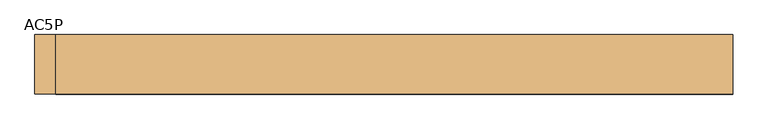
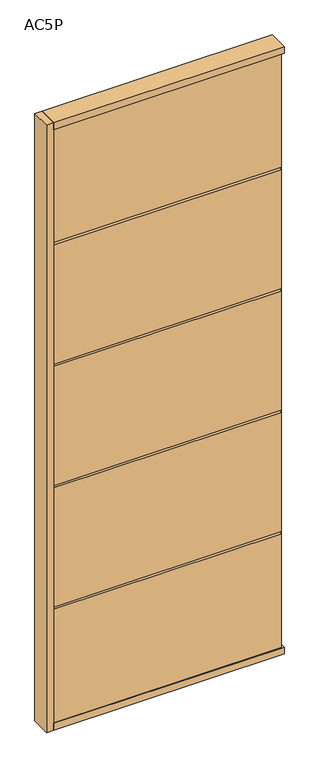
"""IFC4 building model written with IfcOpenShell, lengths in millimetres: door geometry, Mobiliário_Mobiliário de Escritório_Painel Cego - AC5P (Inicial e Final)_Marelli : AC5P."""

from ifc_helpers import new_model, si_unit, frame, origin, origin_with_axes, place, context, project, spatial, polyline, outline, extrude, source, transform, mapped, element, save


def ac5p_d84bd6de(model_context):
    return source(origin(), model_context, "Body", "SweptSolid", [
        extrude(outline(polyline([(500.0, 42.5), (500.0, -42.5), (-470.0, -42.5), (-470.0, 42.5), (500.0, 42.5)])), origin_with_axes(), (0.0, 0.0, 1.0), 30.0),
        extrude(outline(polyline([(490.0, 39.5), (490.0, 21.5), (-470.0, 21.5), (-470.0, 39.5), (490.0, 39.5)])), frame((0.0, 0.0, 30.0), z_axis=(0.0, 0.0, 1.0), x_axis=(1.0, 0.0, 0.0)), (0.0, 0.0, 1.0), 505.0),
        extrude(outline(polyline([(490.0, 21.5), (490.0, -21.5), (-470.0, -21.5), (-470.0, 21.5), (490.0, 21.5)])), frame((0.0, 0.0, 518.5), z_axis=(0.0, 0.0, 1.0), x_axis=(1.0, 0.0, 0.0)), (0.0, 0.0, 1.0), 43.0),
        extrude(outline(polyline([(490.0, 21.5), (490.0, -21.5), (-470.0, -21.5), (-470.0, 21.5), (490.0, 21.5)])), frame((0.0, 0.0, 1058.5), z_axis=(0.0, 0.0, 1.0), x_axis=(1.0, 0.0, 0.0)), (0.0, 0.0, 1.0), 43.0),
        extrude(outline(polyline([(490.0, 39.5), (490.0, 21.5), (-470.0, 21.5), (-470.0, 39.5), (490.0, 39.5)])), frame((0.0, 0.0, 545.0), z_axis=(0.0, 0.0, 1.0), x_axis=(1.0, 0.0, 0.0)), (0.0, 0.0, 1.0), 530.0),
        extrude(outline(polyline([(490.0, -39.5), (-470.0, -39.5), (-470.0, -21.5), (490.0, -21.5), (490.0, -39.5)])), frame((0.0, 0.0, 30.0), z_axis=(0.0, 0.0, 1.0), x_axis=(1.0, 0.0, 0.0)), (0.0, 0.0, 1.0), 505.0),
        extrude(outline(polyline([(490.0, -39.5), (-470.0, -39.5), (-470.0, -21.5), (490.0, -21.5), (490.0, -39.5)])), frame((0.0, 0.0, 545.0), z_axis=(0.0, 0.0, 1.0), x_axis=(1.0, 0.0, 0.0)), (0.0, 0.0, 1.0), 530.0),
        extrude(outline(polyline([(500.0, 42.5), (500.0, -42.5), (-470.0, -42.5), (-470.0, 42.5), (500.0, 42.5)])), frame((0.0, 0.0, 2670.0), z_axis=(0.0, 0.0, 1.0), x_axis=(1.0, 0.0, 0.0)), (0.0, 0.0, 1.0), 30.0),
        extrude(outline(polyline([(490.0, 39.5), (490.0, 21.5), (-470.0, 21.5), (-470.0, 39.5), (490.0, 39.5)])), frame((0.0, 0.0, 1625.0), z_axis=(0.0, 0.0, 1.0), x_axis=(1.0, 0.0, 0.0)), (0.0, 0.0, 1.0), 530.0),
        extrude(outline(polyline([(490.0, 21.5), (490.0, -21.5), (-470.0, -21.5), (-470.0, 21.5), (490.0, 21.5)])), frame((0.0, 0.0, 2138.5), z_axis=(0.0, 0.0, 1.0), x_axis=(1.0, 0.0, 0.0)), (0.0, 0.0, 1.0), 43.0),
        extrude(outline(polyline([(490.0, 21.5), (490.0, -21.5), (-470.0, -21.5), (-470.0, 21.5), (490.0, 21.5)])), frame((0.0, 0.0, 1598.5), z_axis=(0.0, 0.0, 1.0), x_axis=(1.0, 0.0, 0.0)), (0.0, 0.0, 1.0), 43.0),
        extrude(outline(polyline([(490.0, -39.5), (-470.0, -39.5), (-470.0, -21.5), (490.0, -21.5), (490.0, -39.5)])), frame((0.0, 0.0, 1625.0), z_axis=(0.0, 0.0, 1.0), x_axis=(1.0, 0.0, 0.0)), (0.0, 0.0, 1.0), 530.0),
        extrude(outline(polyline([(-500.0, -42.5), (-500.0, 42.5), (-470.0, 42.5), (-470.0, -42.5), (-500.0, -42.5)])), origin_with_axes(), (0.0, 0.0, 1.0), 2700.0),
        extrude(outline(polyline([(500.0, -21.5), (490.0, -21.5), (490.0, 21.5), (500.0, 21.5), (500.0, -21.5)])), frame((0.0, 0.0, 30.0), z_axis=(0.0, 0.0, 1.0), x_axis=(1.0, 0.0, 0.0)), (0.0, 0.0, 1.0), 2640.0),
        extrude(outline(polyline([(490.0, 39.5), (490.0, 21.5), (-470.0, 21.5), (-470.0, 39.5), (490.0, 39.5)])), frame((0.0, 0.0, 2165.0), z_axis=(0.0, 0.0, 1.0), x_axis=(1.0, 0.0, 0.0)), (0.0, 0.0, 1.0), 505.0),
        extrude(outline(polyline([(490.0, -39.5), (-470.0, -39.5), (-470.0, -21.5), (490.0, -21.5), (490.0, -39.5)])), frame((0.0, 0.0, 2165.0), z_axis=(0.0, 0.0, 1.0), x_axis=(1.0, 0.0, 0.0)), (0.0, 0.0, 1.0), 505.0),
        extrude(outline(polyline([(490.0, 39.5), (490.0, 21.5), (-470.0, 21.5), (-470.0, 39.5), (490.0, 39.5)])), frame((0.0, 0.0, 1085.0), z_axis=(0.0, 0.0, 1.0), x_axis=(1.0, 0.0, 0.0)), (0.0, 0.0, 1.0), 530.0),
        extrude(outline(polyline([(490.0, -39.5), (-470.0, -39.5), (-470.0, -21.5), (490.0, -21.5), (490.0, -39.5)])), frame((0.0, 0.0, 1085.0), z_axis=(0.0, 0.0, 1.0), x_axis=(1.0, 0.0, 0.0)), (0.0, 0.0, 1.0), 530.0),
    ])


if __name__ == "__main__":
    model = new_model("IFC4")
    model_context = context("Model", 3, world=origin())
    ifc_project = project(units=[si_unit("LENGTHUNIT", "METRE", prefix="MILLI")], contexts=[model_context])
    site = spatial("IfcSite", under=ifc_project)
    building = spatial("IfcBuilding", under=site)
    placement = place(None, origin())
    ac5p_shape = ac5p_d84bd6de(model_context)
    element("IfcDoor", 1, ObjectType="Mobiliário_Mobiliário de Escritório_Painel Cego - AC5P (Inicial e Final)_Marelli : AC5P", at=placement, inside=building, context=model_context, shape_type="MappedRepresentation", body=[
        mapped(ac5p_shape, transform((0.0, 0.0, 0.0), x_axis=(1.0, 0.0, 0.0), y_axis=(0.0, 1.0, 0.0), z_axis=(0.0, 0.0, 1.0))),
    ])
    save(model, "model.ifc")
